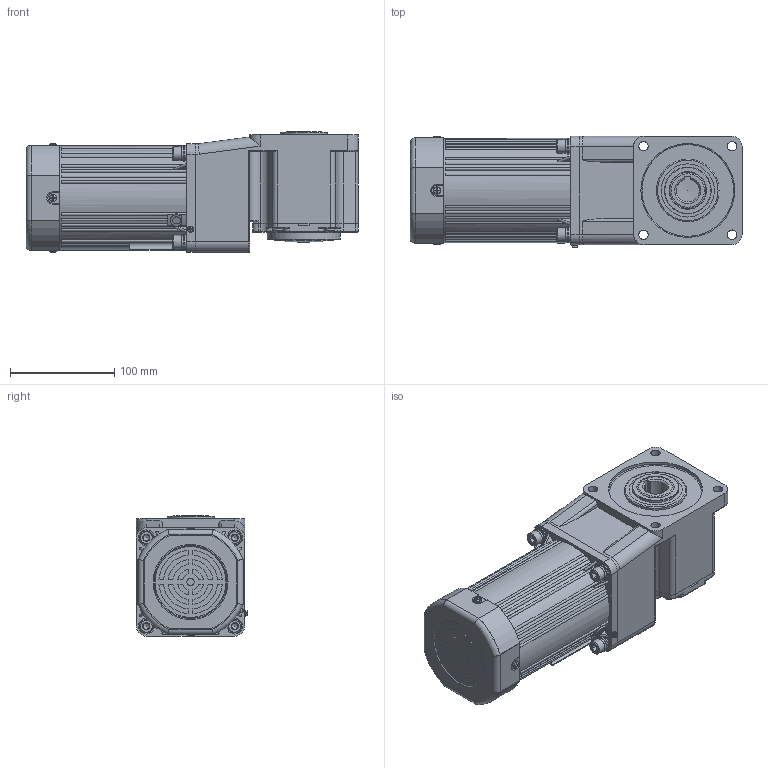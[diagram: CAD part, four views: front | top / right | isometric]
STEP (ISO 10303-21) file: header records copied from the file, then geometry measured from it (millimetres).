
FILE_DESCRIPTION(/* description */ (''),/* implementation_level */ '2;1');
FILE_NAME(/* name */ '100+直角中空-风叶-160-250W 新版.stp',/* time_stamp */ '2025-03-25T15:34:48+08:00',/* author */ (''),/* organization */ (''),/* preprocessor_version */ 'ST-DEVELOPER v18.102',/* originating_system */ 'SIEMENS PLM Software NX 2027',/* authorisation */ '');
FILE_SCHEMA (('AP203_CONFIGURATION_CONTROLLED_3D_DESIGN_OF_MECHANICAL_PARTS_AND_ASSEMBLIES_MIM_LF { 1 0 10303 403 2 1 2}'));
Products named in the file (1): 6RK160-200CC·F_6GU3-750K-C·15L_stp_M066166857A1nl
nj
Bounding box: 318.5 x 106.83 x 115.53 mm (x, y, z)
Volume: 3020331.3 mm3; surface area: 409310.2 mm2
Topology: 24 solids, 24 shells, 1836 faces, 4775 edges, 3089 vertices
Faces by surface type: plane 786, cylinder 572, bspline 214, cone 122, torus 116, sphere 26
Full cylindrical faces by diameter (mm): 2.6 x2, 2.7 x1, 3 x17, 3.2 x2, 3.3 x2, 3.5 x6, 3.6 x4, 4 x4, 4.55 x2, 5.1 x2, 5.15 x2, 6 x10, 6.8 x12, 7 x2, 7.5 x2, 7.76 x4, 8.4 x4, 9 x13, 9.3 x1, 9.5 x4, 13 x4, 14 x8, 15 x5, 15.5 x2, 19 x2, 21 x1, 28 x1, 30 x3, 35 x1, 45 x2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
Entity records: 56089 total; most frequent: CARTESIAN_POINT 13776, ORIENTED_EDGE 8590, DIRECTION 8351, EDGE_CURVE 4295, AXIS2_PLACEMENT_3D 3320, VERTEX_POINT 2922, EDGE_LOOP 2322, ADVANCED_FACE 1835
